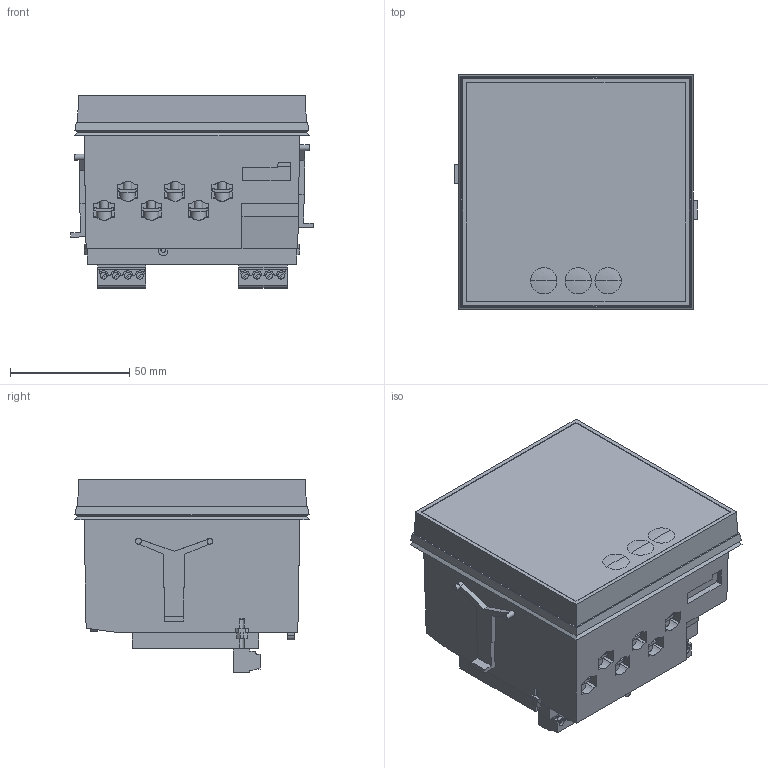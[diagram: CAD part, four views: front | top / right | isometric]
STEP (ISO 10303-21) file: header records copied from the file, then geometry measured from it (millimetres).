
FILE_DESCRIPTION((''),'2;1');
FILE_NAME('1648441507701_ASM','2022-03-28T09:55:28',('SESA540900'),('Schneider-Electric'),'CREO PARAMETRIC BY PTC INC, 2019471','CREO PARAMETRIC BY PTC INC, 2019471','');
FILE_SCHEMA(('AP242_MANAGED_MODEL_BASED_3D_ENGINEERING_MIM_LF { 1 0 10303 442 1 1 4 }'));
Length unit declared in the file: millimetre
Products named in the file (4): EMPTYNODE_1648441508054_ASM; PM2100-LED-MODULE; PM2100-LED-MODULE-3D_ASM; 1648441507701_ASM
Assembly tree (3 placements, depth 3):
  1648441507701_ASM
    EMPTYNODE_1648441508054_ASM
    PM2100-LED-MODULE-3D_ASM
      PM2100-LED-MODULE
Bounding box: 101.67 x 98.47 x 80.84 mm (x, y, z)
Volume: 510551.4 mm3; surface area: 74678.9 mm2
Topology: 2 solids, 3 shells, 777 faces, 2146 edges, 1473 vertices
Faces by surface type: plane 567, cylinder 112, extrusion 92, bspline 6
Entity records: 33520 total; most frequent: CARTESIAN_POINT 7935, ORIENTED_EDGE 4188, DIRECTION 3738, EDGE_CURVE 2094, VECTOR 1702, LINE 1610, VERTEX_POINT 1381, AXIS2_PLACEMENT_3D 1018
